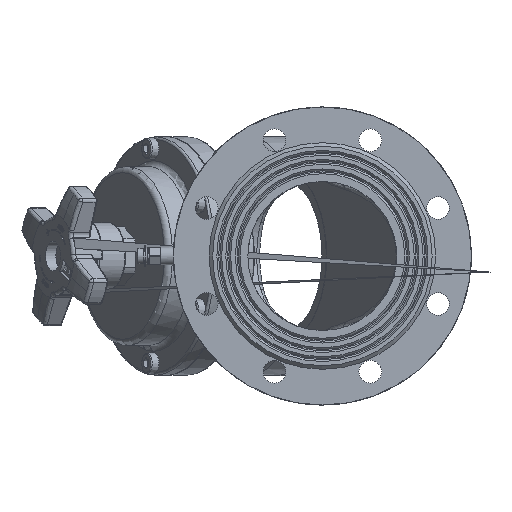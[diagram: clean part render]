
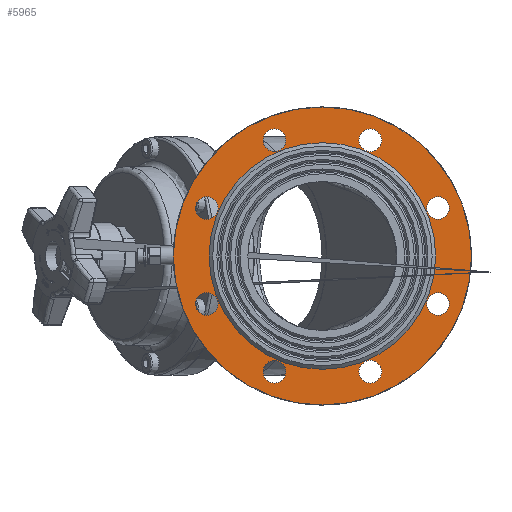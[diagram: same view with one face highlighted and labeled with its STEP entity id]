
A CAD part, left-side view. The second image highlights one B-rep face of the part: STEP entity #5965.
In plain terms, the highlighted planar face has unit normal (-1, 0, 0).
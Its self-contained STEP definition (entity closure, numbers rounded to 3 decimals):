
#5965=ADVANCED_FACE('',(#72947,#72949,#72951,#72953,#72955,#72957,#72959,#72961,
#72963,#72965),#72967,.T.);
#72947=FACE_BOUND('',#72948,.T.);
#72948=EDGE_LOOP('',(#90361));
#72949=FACE_BOUND('',#72950,.T.);
#72950=EDGE_LOOP('',(#90362));
#72951=FACE_BOUND('',#72952,.T.);
#72952=EDGE_LOOP('',(#90363));
#72953=FACE_BOUND('',#72954,.T.);
#72954=EDGE_LOOP('',(#90364));
#72955=FACE_BOUND('',#72956,.T.);
#72956=EDGE_LOOP('',(#90365));
#72957=FACE_BOUND('',#72958,.T.);
#72958=EDGE_LOOP('',(#90366));
#72959=FACE_BOUND('',#72960,.T.);
#72960=EDGE_LOOP('',(#90367));
#72961=FACE_BOUND('',#72962,.T.);
#72962=EDGE_LOOP('',(#90368));
#72963=FACE_BOUND('',#72964,.T.);
#72964=EDGE_LOOP('',(#90369));
#72965=FACE_BOUND('',#72966,.T.);
#72966=EDGE_LOOP('',(#90370));
#72967=PLANE('',#72968);
#72968=AXIS2_PLACEMENT_3D('',#72969,#72970,#72971);
#72969=CARTESIAN_POINT('',(73.972,140.552,13.449));
#72970=DIRECTION('',(-1.,0.,0.));
#72971=DIRECTION('',(0.,-1.,0.));
#90361=ORIENTED_EDGE('',*,*,#97515,.F.);
#90362=ORIENTED_EDGE('',*,*,#97495,.T.);
#90363=ORIENTED_EDGE('',*,*,#97496,.T.);
#90364=ORIENTED_EDGE('',*,*,#97497,.T.);
#90365=ORIENTED_EDGE('',*,*,#97498,.T.);
#90366=ORIENTED_EDGE('',*,*,#97499,.T.);
#90367=ORIENTED_EDGE('',*,*,#97500,.T.);
#90368=ORIENTED_EDGE('',*,*,#97501,.T.);
#90369=ORIENTED_EDGE('',*,*,#97502,.T.);
#90370=ORIENTED_EDGE('',*,*,#97516,.T.);
#97495=EDGE_CURVE('',#102914,#102914,#102915,.T.);
#97496=EDGE_CURVE('',#102916,#102916,#102917,.T.);
#97497=EDGE_CURVE('',#102918,#102918,#102919,.T.);
#97498=EDGE_CURVE('',#102920,#102920,#102921,.T.);
#97499=EDGE_CURVE('',#102922,#102922,#102923,.T.);
#97500=EDGE_CURVE('',#102924,#102924,#102925,.T.);
#97501=EDGE_CURVE('',#102926,#102926,#102927,.T.);
#97502=EDGE_CURVE('',#102928,#102928,#102929,.T.);
#97515=EDGE_CURVE('',#102952,#102952,#102953,.T.);
#97516=EDGE_CURVE('',#102954,#102954,#102955,.T.);
#102914=VERTEX_POINT('',#149015);
#102915=CIRCLE('',#149016,9.5);
#102916=VERTEX_POINT('',#149020);
#102917=CIRCLE('',#149021,9.5);
#102918=VERTEX_POINT('',#149025);
#102919=CIRCLE('',#149026,9.5);
#102920=VERTEX_POINT('',#149030);
#102921=CIRCLE('',#149031,9.5);
#102922=VERTEX_POINT('',#149035);
#102923=CIRCLE('',#149036,9.5);
#102924=VERTEX_POINT('',#149040);
#102925=CIRCLE('',#149041,9.5);
#102926=VERTEX_POINT('',#149045);
#102927=CIRCLE('',#149046,9.5);
#102928=VERTEX_POINT('',#149050);
#102929=CIRCLE('',#149051,9.5);
#102952=VERTEX_POINT('',#149419);
#102953=CIRCLE('',#149420,125.);
#102954=VERTEX_POINT('',#149424);
#102955=CIRCLE('',#149425,95.);
#149015=CARTESIAN_POINT('',(73.972,90.87,110.456));
#149016=AXIS2_PLACEMENT_3D('',#149017,#149018,#149019);
#149017=CARTESIAN_POINT('',(73.972,100.37,110.456));
#149018=DIRECTION('',(1.,0.,0.));
#149019=DIRECTION('',(0.,-1.,0.));
#149020=CARTESIAN_POINT('',(73.972,171.234,110.456));
#149021=AXIS2_PLACEMENT_3D('',#149022,#149023,#149024);
#149022=CARTESIAN_POINT('',(73.972,180.734,110.456));
#149023=DIRECTION('',(1.,0.,0.));
#149024=DIRECTION('',(0.,-1.,0.));
#149025=CARTESIAN_POINT('',(73.972,228.059,53.63));
#149026=AXIS2_PLACEMENT_3D('',#149027,#149028,#149029);
#149027=CARTESIAN_POINT('',(73.972,237.559,53.63));
#149028=DIRECTION('',(1.,0.,0.));
#149029=DIRECTION('',(0.,-1.,0.));
#149030=CARTESIAN_POINT('',(73.972,228.059,-26.733));
#149031=AXIS2_PLACEMENT_3D('',#149032,#149033,#149034);
#149032=CARTESIAN_POINT('',(73.972,237.559,-26.733));
#149033=DIRECTION('',(1.,0.,0.));
#149034=DIRECTION('',(0.,-1.,0.));
#149035=CARTESIAN_POINT('',(73.972,171.234,-83.559));
#149036=AXIS2_PLACEMENT_3D('',#149037,#149038,#149039);
#149037=CARTESIAN_POINT('',(73.972,180.734,-83.559));
#149038=DIRECTION('',(1.,0.,0.));
#149039=DIRECTION('',(0.,-1.,0.));
#149040=CARTESIAN_POINT('',(73.972,90.87,-83.559));
#149041=AXIS2_PLACEMENT_3D('',#149042,#149043,#149044);
#149042=CARTESIAN_POINT('',(73.972,100.37,-83.559));
#149043=DIRECTION('',(1.,0.,0.));
#149044=DIRECTION('',(0.,-1.,0.));
#149045=CARTESIAN_POINT('',(73.972,34.045,-26.733));
#149046=AXIS2_PLACEMENT_3D('',#149047,#149048,#149049);
#149047=CARTESIAN_POINT('',(73.972,43.545,-26.733));
#149048=DIRECTION('',(1.,0.,0.));
#149049=DIRECTION('',(0.,-1.,0.));
#149050=CARTESIAN_POINT('',(73.972,34.045,53.63));
#149051=AXIS2_PLACEMENT_3D('',#149052,#149053,#149054);
#149052=CARTESIAN_POINT('',(73.972,43.545,53.63));
#149053=DIRECTION('',(1.,0.,0.));
#149054=DIRECTION('',(0.,-1.,0.));
#149419=CARTESIAN_POINT('',(73.972,265.552,13.449));
#149420=AXIS2_PLACEMENT_3D('',#149421,#149422,#149423);
#149421=CARTESIAN_POINT('',(73.972,140.552,13.449));
#149422=DIRECTION('',(1.,0.,0.));
#149423=DIRECTION('',(0.,-1.,0.));
#149424=CARTESIAN_POINT('',(73.972,45.552,13.449));
#149425=AXIS2_PLACEMENT_3D('',#149426,#149427,#149428);
#149426=CARTESIAN_POINT('',(73.972,140.552,13.449));
#149427=DIRECTION('',(1.,0.,0.));
#149428=DIRECTION('',(0.,-1.,0.));
